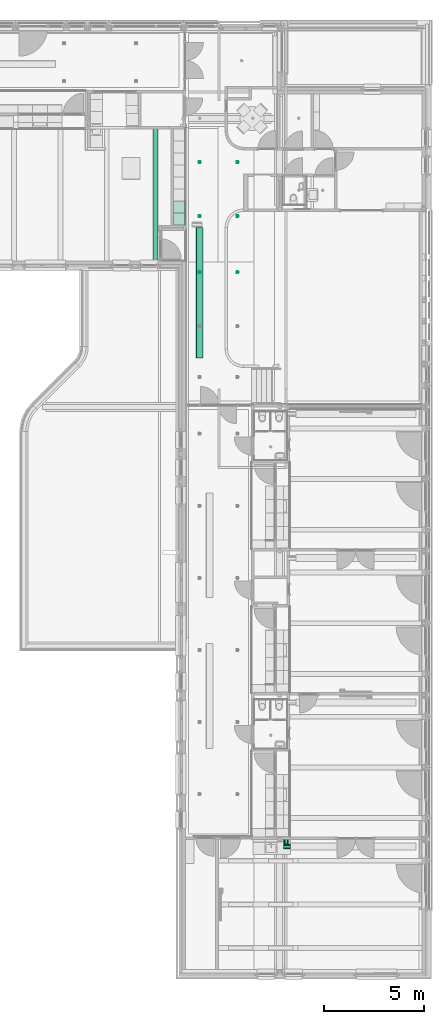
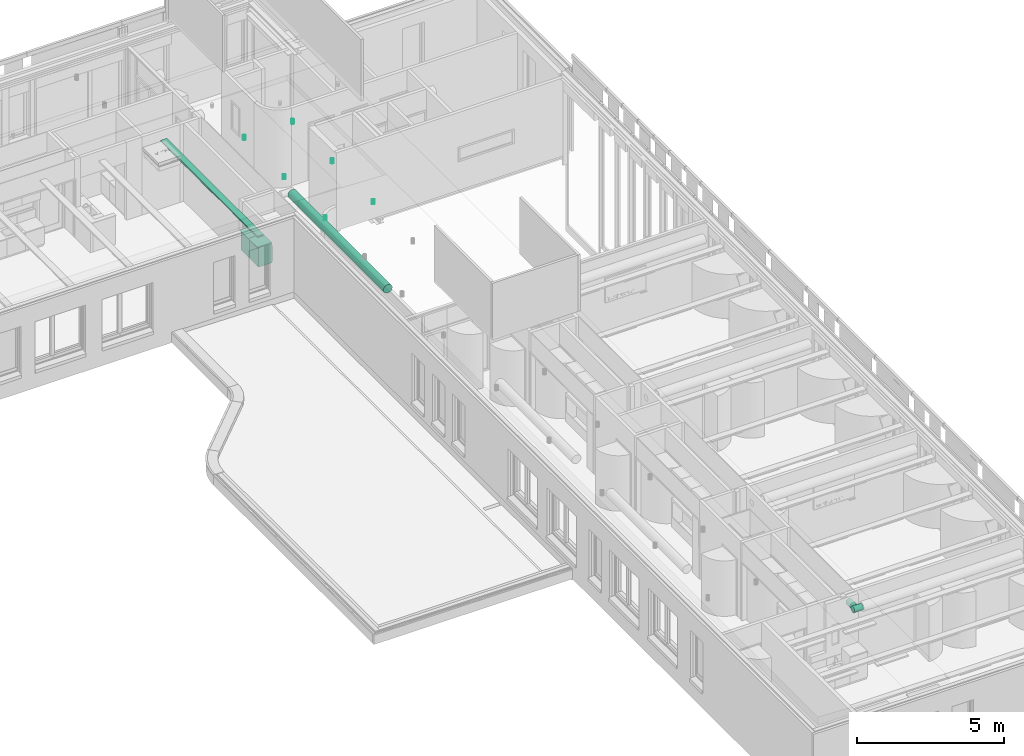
# One storey, part 77 of 128: 6 flow terminals, 3 distribution control elements.
"""IFC2X3 building model written with IfcOpenShell, lengths in millimetres."""

from ifc_helpers import new_model, entity, si_unit, converted_unit, derived_unit, direction, frame, frame_2d, origin, origin_2d_with_axis, place, context, subcontext, project, spatial, polyline, rectangle, circle, outline, extrude, source, transform, mapped, material, type_object, type_shapes, element, save


model = new_model("IFC2X3")

# Units and contexts
model_context = context("Model", 3, precision=0.01, world=origin(), true_north=direction((6.123031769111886e-17, 1.0)))
body_context = subcontext(model_context, "Body", "Model", "MODEL_VIEW")
ifc_project = project(units=[si_unit("LENGTHUNIT", "METRE", prefix="MILLI"), si_unit("AREAUNIT", "SQUARE_METRE"), si_unit("VOLUMEUNIT", "CUBIC_METRE"), converted_unit("PLANEANGLEUNIT", "DEGREE", entity("IfcRatioMeasure", 0.017453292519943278), si_unit("PLANEANGLEUNIT", "RADIAN"), dimensions=[0, 0, 0, 0, 0, 0, 0]), si_unit("MASSUNIT", "GRAM", prefix="KILO"), derived_unit("MASSDENSITYUNIT", [(si_unit("MASSUNIT", "GRAM", prefix="KILO"), 1), (si_unit("LENGTHUNIT", "METRE"), -3)]), derived_unit("IONCONCENTRATIONUNIT", [(si_unit("MASSUNIT", "GRAM", prefix="KILO"), 1), (si_unit("LENGTHUNIT", "METRE"), -3)]), derived_unit("MOMENTOFINERTIAUNIT", [(si_unit("LENGTHUNIT", "METRE"), 4)]), si_unit("TIMEUNIT", "SECOND"), si_unit("FREQUENCYUNIT", "HERTZ"), si_unit("THERMODYNAMICTEMPERATUREUNIT", "DEGREE_CELSIUS"), derived_unit("THERMALTRANSMITTANCEUNIT", [(si_unit("MASSUNIT", "GRAM", prefix="KILO"), 1), (si_unit("THERMODYNAMICTEMPERATUREUNIT", "KELVIN"), -1), (si_unit("TIMEUNIT", "SECOND"), -3)]), derived_unit("THERMALCONDUCTANCEUNIT", [(si_unit("MASSUNIT", "GRAM", prefix="KILO"), 1), (si_unit("THERMODYNAMICTEMPERATUREUNIT", "KELVIN"), -1), (si_unit("TIMEUNIT", "SECOND"), -3), (si_unit("LENGTHUNIT", "METRE"), 1)]), derived_unit("VOLUMETRICFLOWRATEUNIT", [(si_unit("LENGTHUNIT", "METRE"), 3), (si_unit("TIMEUNIT", "SECOND"), -1)]), derived_unit("MASSFLOWRATEUNIT", [(si_unit("MASSUNIT", "GRAM", prefix="KILO"), 1), (si_unit("TIMEUNIT", "SECOND"), -1)]), derived_unit("ROTATIONALFREQUENCYUNIT", [(si_unit("TIMEUNIT", "SECOND"), -1)]), si_unit("ELECTRICCURRENTUNIT", "AMPERE"), si_unit("ELECTRICVOLTAGEUNIT", "VOLT"), si_unit("POWERUNIT", "WATT"), si_unit("FORCEUNIT", "NEWTON", prefix="KILO"), si_unit("ILLUMINANCEUNIT", "LUX"), si_unit("LUMINOUSFLUXUNIT", "LUMEN"), si_unit("LUMINOUSINTENSITYUNIT", "CANDELA"), derived_unit("USERDEFINED", [(si_unit("MASSUNIT", "GRAM", prefix="KILO"), -1), (si_unit("LENGTHUNIT", "METRE"), -2), (si_unit("TIMEUNIT", "SECOND"), 3), (si_unit("LUMINOUSFLUXUNIT", "LUMEN"), 1)]), derived_unit("USERDEFINED", [(si_unit("MASSUNIT", "GRAM", prefix="KILO"), 1), (si_unit("TIMEUNIT", "SECOND"), -3), (si_unit("LENGTHUNIT", "METRE"), 3), (si_unit("ELECTRICCURRENTUNIT", "AMPERE"), -2)]), derived_unit("SOUNDPOWERUNIT", [(si_unit("MASSUNIT", "GRAM", prefix="KILO"), 1), (si_unit("TIMEUNIT", "SECOND"), -3), (si_unit("LENGTHUNIT", "METRE"), 2)]), derived_unit("SOUNDPRESSUREUNIT", [(si_unit("MASSUNIT", "GRAM", prefix="KILO"), 1), (si_unit("LENGTHUNIT", "METRE"), -1), (si_unit("TIMEUNIT", "SECOND"), -2)]), derived_unit("LINEARVELOCITYUNIT", [(si_unit("LENGTHUNIT", "METRE"), 1), (si_unit("TIMEUNIT", "SECOND"), -1)]), si_unit("PRESSUREUNIT", "PASCAL"), derived_unit("USERDEFINED", [(si_unit("MASSUNIT", "GRAM", prefix="KILO"), 1), (si_unit("LENGTHUNIT", "METRE"), -2), (si_unit("TIMEUNIT", "SECOND"), -2)]), derived_unit("LINEARFORCEUNIT", [(si_unit("MASSUNIT", "GRAM", prefix="KILO"), 1), (si_unit("TIMEUNIT", "SECOND"), -2)]), derived_unit("PLANARFORCEUNIT", [(si_unit("MASSUNIT", "GRAM", prefix="KILO"), 1), (si_unit("LENGTHUNIT", "METRE"), -1), (si_unit("TIMEUNIT", "SECOND"), -2)]), derived_unit("SPECIFICHEATCAPACITYUNIT", [(si_unit("THERMODYNAMICTEMPERATUREUNIT", "KELVIN"), -1), (si_unit("LENGTHUNIT", "METRE"), 2), (si_unit("TIMEUNIT", "SECOND"), -2)]), derived_unit("HEATINGVALUEUNIT", [(si_unit("LENGTHUNIT", "METRE"), 2), (si_unit("TIMEUNIT", "SECOND"), -2)]), derived_unit("VAPORPERMEABILITYUNIT", [(si_unit("LENGTHUNIT", "METRE"), -1), (si_unit("TIMEUNIT", "SECOND"), 1)]), derived_unit("DYNAMICVISCOSITYUNIT", [(si_unit("MASSUNIT", "GRAM", prefix="KILO"), 1), (si_unit("TIMEUNIT", "SECOND"), -1), (si_unit("LENGTHUNIT", "METRE"), -1)]), derived_unit("THERMALEXPANSIONCOEFFICIENTUNIT", [(si_unit("THERMODYNAMICTEMPERATUREUNIT", "KELVIN"), -1)]), derived_unit("MODULUSOFELASTICITYUNIT", [(si_unit("MASSUNIT", "GRAM", prefix="KILO"), 1), (si_unit("LENGTHUNIT", "METRE"), -1), (si_unit("TIMEUNIT", "SECOND"), -2)]), derived_unit("ISOTHERMALMOISTURECAPACITYUNIT", [(si_unit("LENGTHUNIT", "METRE"), 3), (si_unit("MASSUNIT", "GRAM", prefix="KILO"), -1)]), derived_unit("MOISTUREDIFFUSIVITYUNIT", [(si_unit("TIMEUNIT", "SECOND"), -1), (si_unit("LENGTHUNIT", "METRE"), 2)])], contexts=[model_context])

# Site, building, storey, space
site_placement = place(None, frame((0.0, 300.0, 0.0)))
site = spatial("IfcSite", under=ifc_project, at=site_placement, Name="<Kadastrale nummers>", CompositionType="ELEMENT")
building_placement = place(site_placement, origin())
building = spatial("IfcBuilding", under=site, at=building_placement, CompositionType="ELEMENT")
storey_placement = place(building_placement, frame((0.0, 0.0, 3560.0000331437)))
storey = spatial("IfcBuildingStorey", under=building, at=storey_placement, Name="01 eerste verdieping", CompositionType="ELEMENT", Elevation=3560.0000331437)
space_placement = place(storey_placement, origin())
space = spatial("IfcSpace", under=storey, at=space_placement, Name="1.10", CompositionType="ELEMENT", InteriorOrExteriorSpace="INTERNAL")

# Flow terminals
ifc_material = material(Name="<Unnamed>")
distribution_element_type = type_object("IfcDistributionElementType", Name="NLRS_83_PF_LB_vaatwasser_gen_ASN:Koelkast", material=ifc_material)
shared_shape_1 = source(origin(), body_context, "Body", "SweptSolid", [
    extrude(rectangle(XDim=599.9999999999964, YDim=490.0000000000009, at=frame_2d((8.810729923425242e-13, 1.3926637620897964e-12), x_axis=(1.0, 0.0))), frame((0.0, 0.0, 0.0), z_axis=(0.0, 0.0, 1.0), x_axis=(-1.0, 0.0, 0.0)), (0.0, 0.0, 1.0), 819.999999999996),
    extrude(outline(polyline([(-306.48816733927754, -23.33333333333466), (353.5118326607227, -23.33333333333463), (396.40197107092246, -3.333333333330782), (396.40197107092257, 26.666666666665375), (-419.9138037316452, 26.666666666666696), (-419.9138037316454, -3.3333333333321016), (-306.48816733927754, -23.33333333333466)])), frame((-300.0, -271.6666666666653, 400.0861962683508), z_axis=(1.0, 0.0, 0.0), x_axis=(0.0, 0.0, -1.0)), (0.0, 0.0, 1.0), 600.0),
    extrude(rectangle(XDim=599.9999999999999, YDim=569.9999999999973, at=origin_2d_with_axis()), frame((0.0, 10.0, 820.0), z_axis=(0.0, 0.0, 1.0), x_axis=(-1.0, 0.0, 0.0)), (0.0, 0.0, 1.0), 30.000000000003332),
    extrude(rectangle(XDim=5.000000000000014, YDim=44.99999999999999, at=origin_2d_with_axis()), frame((-181.84610700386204, 247.50000000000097, 787.4896284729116), z_axis=(0.0, 0.0, 1.0), x_axis=(0.0, -1.0, 0.0)), (0.0, 0.0, 1.0), 20.000000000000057),
    extrude(circle(Radius=11.0, at=origin_2d_with_axis()), frame((-104.88652685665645, 245.0, 796.8379268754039), z_axis=(0.0, 1.0, 0.0), x_axis=(1.0, 0.0, 0.0)), (0.0, 0.0, 1.0), 5.000000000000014),
    extrude(circle(Radius=20.0, at=frame_2d((0.0, -3.383959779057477e-14), x_axis=(1.0, 0.0))), frame((-229.32976799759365, 245.0, 48.87712848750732), z_axis=(0.0, 1.0, 0.0), x_axis=(1.0, 0.0, 0.0)), (0.0, 0.0, 1.0), 5.000000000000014),
])
type_shapes(distribution_element_type, [shared_shape_1])
for number, where, z_axis, x_axis in (
    (1, (36395.0, 40297.0, 190.00000187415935), (0.0, 0.0, 1.0), (0.0, 1.0, 0.0)),
    (2, (36395.0, 40897.0, 190.00000187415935), (0.0, 0.0, 1.0), (0.0, 1.0, 0.0)),
):
    element("IfcFlowTerminal", number, at=place(space_placement, frame(where, z_axis=z_axis, x_axis=x_axis)), inside=space, type_object=distribution_element_type, material=ifc_material, Name="NLRS_83_PF_LB_vaatwasser_gen_ASN:Koelkast", ObjectType="NLRS_83_PF_LB_vaatwasser_gen_ASN:Koelkast", context=body_context, shape_type="MappedRepresentation", body=[
        mapped(shared_shape_1, transform((0.0, 0.0, 0.0), scale=1.0)),
    ])
light_fixture_type_1 = type_object("IfcLightFixtureType", Name="63_DAT_TL Bak met kabelgoot:63_DAT_TL Bak met kabelgoot", PredefinedType="NOTDEFINED", material=ifc_material)
shared_shape_2 = source(origin(), body_context, "Body", "SweptSolid", [
    extrude(rectangle(XDim=1220.000000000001, YDim=199.9999999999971, at=origin_2d_with_axis()), frame((3298.750000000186, 0.0, 2750.0), z_axis=(0.0, 0.0, 1.0), x_axis=(-1.0, 0.0, 0.0)), (0.0, 0.0, 1.0), 49.99999999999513),
    extrude(rectangle(XDim=1220.000000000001, YDim=199.9999999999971, at=frame_2d((-5.684341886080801e-13, 0.0), x_axis=(1.0, 0.0))), frame((5487.50000000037, 0.0, 2750.0), z_axis=(0.0, 0.0, 1.0), x_axis=(-1.0, 0.0, 0.0)), (0.0, 0.0, 1.0), 49.99999999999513),
    extrude(rectangle(XDim=1220.0000000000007, YDim=199.9999999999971, at=frame_2d((1.1368683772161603e-13, 0.0), x_axis=(1.0, 0.0))), frame((1110.0, 0.0, 2750.0), z_axis=(0.0, 0.0, 1.0), x_axis=(-1.0, 0.0, 0.0)), (0.0, 0.0, 1.0), 49.99999999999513),
    extrude(rectangle(XDim=6597.500000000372, YDim=239.99999999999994, at=origin_2d_with_axis()), frame((3298.750000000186, 0.0, 2800.0), z_axis=(0.0, 0.0, 1.0), x_axis=(-1.0, 0.0, 0.0)), (0.0, 0.0, 1.0), 50.3008697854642),
])
type_shapes(light_fixture_type_1, [shared_shape_2])
flow_terminal_placement = place(storey_placement, frame((35189.99862327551, 44797.499999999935, 90.00000187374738), z_axis=(0.0, 0.0, 1.0), x_axis=(0.0, -1.0, 0.0)))
element("IfcFlowTerminal", 3, at=flow_terminal_placement, inside=storey, type_object=light_fixture_type_1, material=ifc_material, Name="63_DAT_TL Bak met kabelgoot:63_DAT_TL Bak met kabelgoot", ObjectType="63_DAT_TL Bak met kabelgoot:63_DAT_TL Bak met kabelgoot", context=body_context, shape_type="MappedRepresentation", body=[
    mapped(shared_shape_2, transform((0.0, 0.0, 0.0), scale=1.0)),
])
light_fixture_type_2 = type_object("IfcLightFixtureType", Name="63_DAT_Spotverlichting layout:2 Spots", PredefinedType="NOTDEFINED", material=ifc_material)
shared_shape_3 = source(origin(), body_context, "Body", "SweptSolid", [
    extrude(circle(Radius=50.0, at=frame_2d((0.0, -8.077722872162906e-14), x_axis=(1.0, 0.0))), frame((2592.5000000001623, 0.0, 3090.0)), (0.0, 0.0, 1.0), 150.00000000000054),
    extrude(circle(Radius=50.0, at=frame_2d((0.0, -8.077722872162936e-14), x_axis=(1.0, 0.0))), frame((700.0, 0.0, 3090.0)), (0.0, 0.0, 1.0), 150.0),
])
type_shapes(light_fixture_type_2, [shared_shape_3])
for number, where, name in (
    (4, (36700.0, 37622.30819706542, 90.00000187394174), "63_DAT_Spotverlichting layout:2 Spots"),
    (5, (36700.0, 40422.308197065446, 90.00000187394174), "63_DAT_Spotverlichting layout:2 Spots"),
    (6, (36700.0, 43122.308197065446, 90.00000187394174), "63_DAT_Spotverlichting layout:2 Spots"),
):
    element("IfcFlowTerminal", number, at=place(storey_placement, frame(where)), inside=storey, type_object=light_fixture_type_2, material=ifc_material, Name=name, ObjectType="63_DAT_Spotverlichting layout:2 Spots", context=body_context, shape_type="MappedRepresentation", body=[
        mapped(shared_shape_3, transform((0.0, 0.0, 0.0), scale=1.0)),
    ])

# Distribution control elements
controller_type_1 = type_object("IfcControllerType", Name="57_luchtbehandelings buis:Ø 250 op 2946", PredefinedType="NOTDEFINED", material=ifc_material)
shared_shape_4 = source(origin(), body_context, "Body", "SweptSolid", [
    extrude(circle(Radius=125.00000000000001, at=origin_2d_with_axis()), frame((0.0, 0.0, 2800.0), z_axis=(1.0, 0.0, 0.0), x_axis=(0.0, 1.0, 0.0)), (0.0, 0.0, 1.0), 427.4999999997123),
])
type_shapes(controller_type_1, [shared_shape_4])
distribution_control_element_1_placement = place(storey_placement, frame((41715.0, 9003.998623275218, 90.00000187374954), z_axis=(0.0, 0.0, 1.0), x_axis=(0.0, 1.0, 0.0)))
element("IfcDistributionControlElement", 7, at=distribution_control_element_1_placement, inside=storey, type_object=controller_type_1, material=ifc_material, Name="57_luchtbehandelings buis:Ø 250 op 2946", ObjectType="57_luchtbehandelings buis:Ø 250 op 2946", context=body_context, shape_type="MappedRepresentation", body=[
    mapped(shared_shape_4, transform((0.0, 0.0, 0.0), scale=1.0)),
])
controller_type_2 = type_object("IfcControllerType", Name="57_luchtbehandelings buis:Ø 250 op 2946", PredefinedType="NOTDEFINED", material=ifc_material)
shared_shape_5 = source(origin(), body_context, "Body", "SweptSolid", [
    extrude(circle(Radius=125.00000000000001, at=origin_2d_with_axis()), frame((0.0, 0.0, 2800.0), z_axis=(1.0, 0.0, 0.0), x_axis=(0.0, 1.0, 0.0)), (0.0, 0.0, 1.0), 344.57807814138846),
])
type_shapes(controller_type_2, [shared_shape_5])
distribution_control_element_2_placement = place(storey_placement, frame((41934.72121476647, 8949.998623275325, 90.00000187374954), z_axis=(0.0, 0.0, 1.0), x_axis=(-1.0, 0.0, 0.0)))
element("IfcDistributionControlElement", 8, at=distribution_control_element_2_placement, inside=storey, type_object=controller_type_2, material=ifc_material, Name="57_luchtbehandelings buis:Ø 250 op 2946", ObjectType="57_luchtbehandelings buis:Ø 250 op 2946", context=body_context, shape_type="MappedRepresentation", body=[
    mapped(shared_shape_5, transform((0.0, 0.0, 0.0), scale=1.0)),
])
controller_type_3 = type_object("IfcControllerType", Name="57_luchtbehandelings buis:Ø 350 op 2945", PredefinedType="NOTDEFINED", material=ifc_material)
shared_shape_6 = source(origin(), body_context, "Body", "SweptSolid", [
    extrude(circle(Radius=175.0, at=origin_2d_with_axis()), frame((0.0, 0.0, 2800.0), z_axis=(1.0, 0.0, 0.0), x_axis=(0.0, 1.0, 0.0)), (0.0, 0.0, 1.0), 6516.031535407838),
])
type_shapes(controller_type_3, [shared_shape_6])
distribution_control_element_3_placement = place(storey_placement, frame((37400.0, 39870.0, 90.00000187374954), z_axis=(0.0, 0.0, 1.0), x_axis=(0.0, -1.0, 0.0)))
element("IfcDistributionControlElement", 9, at=distribution_control_element_3_placement, inside=storey, type_object=controller_type_3, material=ifc_material, Name="57_luchtbehandelings buis:Ø 350 op 2945", ObjectType="57_luchtbehandelings buis:Ø 350 op 2945", context=body_context, shape_type="MappedRepresentation", body=[
    mapped(shared_shape_6, transform((0.0, 0.0, 0.0), scale=1.0)),
])

save(model, "model.ifc")
